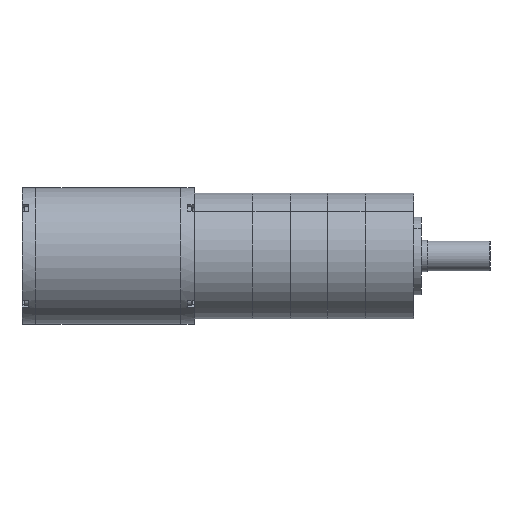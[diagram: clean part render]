
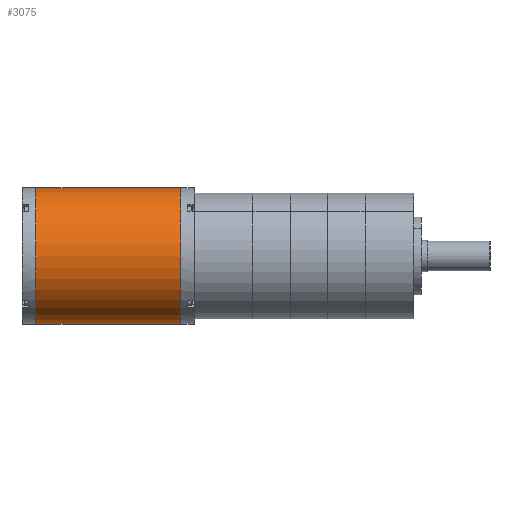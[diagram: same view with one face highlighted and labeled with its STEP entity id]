
A CAD part, front view. The second image highlights one B-rep face of the part: STEP entity #3075.
In plain terms, the highlighted cylindrical face has radius 43.69 mm (diameter 87.38 mm), a partial arc.
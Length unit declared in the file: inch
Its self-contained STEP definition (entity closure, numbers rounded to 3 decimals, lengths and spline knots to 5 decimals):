
#1095 = CIRCLE ( 'NONE', #7389, 1.72008 ) ;
#1097 = ORIENTED_EDGE ( 'NONE', *, *, #5468, .T. ) ;
#1119 = CARTESIAN_POINT ( 'NONE',  ( 2.85858, 2.42553, 2.36782 ) ) ;
#1852 = DIRECTION ( 'NONE',  ( -1., 0., 0. ) ) ;
#1940 = VERTEX_POINT ( 'NONE', #1119 ) ;
#2129 = VERTEX_POINT ( 'NONE', #4557 ) ;
#2559 = DIRECTION ( 'NONE',  ( 0., 0., 1. ) ) ;
#2813 = EDGE_CURVE ( 'NONE', #7172, #2129, #4507, .T. ) ;
#2843 = CIRCLE ( 'NONE', #3762, 1.72008 ) ;
#3075 = ADVANCED_FACE ( 'NONE', ( #10157 ), #5423, .T. ) ;
#3219 = ORIENTED_EDGE ( 'NONE', *, *, #2813, .T. ) ;
#3451 = CARTESIAN_POINT ( 'NONE',  ( -0.79142, 2.42553, 4.0879 ) ) ;
#3762 = AXIS2_PLACEMENT_3D ( 'NONE', #8836, #8876, #6902 ) ;
#4110 = AXIS2_PLACEMENT_3D ( 'NONE', #7844, #1852, #2559 ) ;
#4197 = VECTOR ( 'NONE', #10964, 39.37008 ) ;
#4460 = DIRECTION ( 'NONE',  ( 1., 0., 0. ) ) ;
#4507 = LINE ( 'NONE', #5943, #4197 ) ;
#4557 = CARTESIAN_POINT ( 'NONE',  ( -0.79142, 2.42553, 5.80798 ) ) ;
#4735 = EDGE_LOOP ( 'NONE', ( #6966, #6685, #3219, #1097 ) ) ;
#5090 = CARTESIAN_POINT ( 'NONE',  ( 7.7237, 2.42553, 2.36782 ) ) ;
#5197 = CARTESIAN_POINT ( 'NONE',  ( -0.79142, 2.42553, 2.36782 ) ) ;
#5423 = CYLINDRICAL_SURFACE ( 'NONE', #4110, 1.72008 ) ;
#5468 = EDGE_CURVE ( 'NONE', #2129, #13006, #1095, .T. ) ;
#5602 = EDGE_CURVE ( 'NONE', #7172, #1940, #2843, .T. ) ;
#5943 = CARTESIAN_POINT ( 'NONE',  ( 7.7237, 2.42553, 5.80798 ) ) ;
#6476 = VECTOR ( 'NONE', #7205, 39.37008 ) ;
#6685 = ORIENTED_EDGE ( 'NONE', *, *, #5602, .F. ) ;
#6801 = LINE ( 'NONE', #5090, #6476 ) ;
#6902 = DIRECTION ( 'NONE',  ( 0., 0., -1. ) ) ;
#6966 = ORIENTED_EDGE ( 'NONE', *, *, #12521, .F. ) ;
#7172 = VERTEX_POINT ( 'NONE', #11367 ) ;
#7205 = DIRECTION ( 'NONE',  ( -1., 0., 0. ) ) ;
#7389 = AXIS2_PLACEMENT_3D ( 'NONE', #3451, #4460, #8583 ) ;
#7844 = CARTESIAN_POINT ( 'NONE',  ( 7.7237, 2.42553, 4.0879 ) ) ;
#8583 = DIRECTION ( 'NONE',  ( 0., 0., -1. ) ) ;
#8836 = CARTESIAN_POINT ( 'NONE',  ( 2.85858, 2.42553, 4.0879 ) ) ;
#8876 = DIRECTION ( 'NONE',  ( 1., 0., 0. ) ) ;
#10157 = FACE_OUTER_BOUND ( 'NONE', #4735, .T. ) ;
#10964 = DIRECTION ( 'NONE',  ( -1., 0., 0. ) ) ;
#11367 = CARTESIAN_POINT ( 'NONE',  ( 2.85858, 2.42553, 5.80798 ) ) ;
#12521 = EDGE_CURVE ( 'NONE', #1940, #13006, #6801, .T. ) ;
#13006 = VERTEX_POINT ( 'NONE', #5197 ) ;
